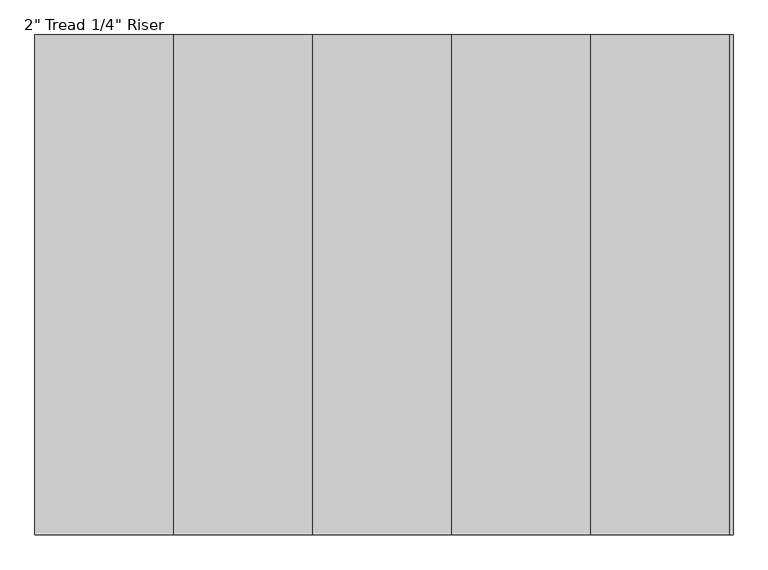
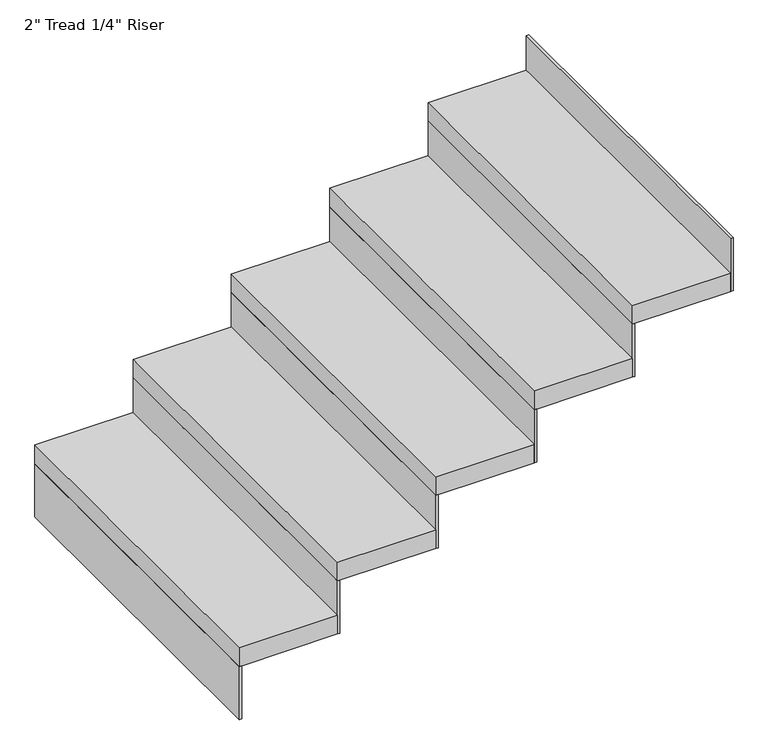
"""IFC4 building model written with IfcOpenShell, lengths in millimetres: stair flight geometry."""

from ifc_helpers import new_model, si_unit, frame, origin, place, context, project, spatial, polyline, outline, extrude, source, transform, mapped, element, save


def stair_flight_8d318a11(model_context):
    return source(origin(), model_context, "Body", "SweptSolid", [
        extrude(outline(polyline([(113733.4236551, 15846.0395941), (113727.0736551, 15846.0395941), (113727.0736551, 16760.4395941), (113733.4236551, 16760.4395941), (113733.4236551, 15846.0395941)])), frame((0.0, 0.0, 2126.3428571), z_axis=(0.0, 0.0, 1.0), x_axis=(1.0, 0.0, 0.0)), (0.0, 0.0, 1.0), 145.1428571),
        extrude(outline(polyline([(113981.0736551, 16760.4395941), (113981.0736551, 15846.0395941), (113727.0736551, 15846.0395941), (113727.0736551, 16760.4395941), (113981.0736551, 16760.4395941)])), frame((0.0, 0.0, 2271.4857143), z_axis=(0.0, 0.0, 1.0), x_axis=(1.0, 0.0, 0.0)), (0.0, 0.0, 1.0), 50.8),
        extrude(outline(polyline([(113987.4236551, 15846.0395941), (113981.0736551, 15846.0395941), (113981.0736551, 16760.4395941), (113987.4236551, 16760.4395941), (113987.4236551, 15846.0395941)])), frame((0.0, 0.0, 2271.4857143), z_axis=(0.0, 0.0, 1.0), x_axis=(1.0, 0.0, 0.0)), (0.0, 0.0, 1.0), 145.1428571),
        extrude(outline(polyline([(114235.0736551, 16760.4395941), (114235.0736551, 15846.0395941), (113981.0736551, 15846.0395941), (113981.0736551, 16760.4395941), (114235.0736551, 16760.4395941)])), frame((0.0, 0.0, 2416.6285714), z_axis=(0.0, 0.0, 1.0), x_axis=(1.0, 0.0, 0.0)), (0.0, 0.0, 1.0), 50.8),
        extrude(outline(polyline([(114241.4236551, 15846.0395941), (114235.0736551, 15846.0395941), (114235.0736551, 16760.4395941), (114241.4236551, 16760.4395941), (114241.4236551, 15846.0395941)])), frame((0.0, 0.0, 2416.6285714), z_axis=(0.0, 0.0, 1.0), x_axis=(1.0, 0.0, 0.0)), (0.0, 0.0, 1.0), 145.1428571),
        extrude(outline(polyline([(114489.0736551, 16760.4395941), (114489.0736551, 15846.0395941), (114235.0736551, 15846.0395941), (114235.0736551, 16760.4395941), (114489.0736551, 16760.4395941)])), frame((0.0, 0.0, 2561.7714286), z_axis=(0.0, 0.0, 1.0), x_axis=(1.0, 0.0, 0.0)), (0.0, 0.0, 1.0), 50.8),
        extrude(outline(polyline([(114495.4236551, 15846.0395941), (114489.0736551, 15846.0395941), (114489.0736551, 16760.4395941), (114495.4236551, 16760.4395941), (114495.4236551, 15846.0395941)])), frame((0.0, 0.0, 2561.7714286), z_axis=(0.0, 0.0, 1.0), x_axis=(1.0, 0.0, 0.0)), (0.0, 0.0, 1.0), 145.1428571),
        extrude(outline(polyline([(114743.0736551, 16760.4395941), (114743.0736551, 15846.0395941), (114489.0736551, 15846.0395941), (114489.0736551, 16760.4395941), (114743.0736551, 16760.4395941)])), frame((0.0, 0.0, 2706.9142857), z_axis=(0.0, 0.0, 1.0), x_axis=(1.0, 0.0, 0.0)), (0.0, 0.0, 1.0), 50.8),
        extrude(outline(polyline([(114749.4236551, 15846.0395941), (114743.0736551, 15846.0395941), (114743.0736551, 16760.4395941), (114749.4236551, 16760.4395941), (114749.4236551, 15846.0395941)])), frame((0.0, 0.0, 2706.9142857), z_axis=(0.0, 0.0, 1.0), x_axis=(1.0, 0.0, 0.0)), (0.0, 0.0, 1.0), 145.1428571),
        extrude(outline(polyline([(115003.4236551, 15846.0395941), (114997.0736551, 15846.0395941), (114997.0736551, 16760.4395941), (115003.4236551, 16760.4395941), (115003.4236551, 15846.0395941)])), frame((0.0, 0.0, 2852.0571429), z_axis=(0.0, 0.0, 1.0), x_axis=(1.0, 0.0, 0.0)), (0.0, 0.0, 1.0), 145.1428571),
        extrude(outline(polyline([(114997.0736551, 16760.4395941), (114997.0736551, 15846.0395941), (114743.0736551, 15846.0395941), (114743.0736551, 16760.4395941), (114997.0736551, 16760.4395941)])), frame((0.0, 0.0, 2852.0571429), z_axis=(0.0, 0.0, 1.0), x_axis=(1.0, 0.0, 0.0)), (0.0, 0.0, 1.0), 50.8),
    ])


if __name__ == "__main__":
    model = new_model("IFC4")
    model_context = context("Model", 3, world=origin())
    ifc_project = project(units=[si_unit("LENGTHUNIT", "METRE", prefix="MILLI")], contexts=[model_context])
    site = spatial("IfcSite", under=ifc_project)
    building = spatial("IfcBuilding", under=site)
    placement = place(None, origin())
    stair_flight_shape = stair_flight_8d318a11(model_context)
    element("IfcStairFlight", 1, ObjectType="2\" Tread 1/4\" Riser", at=placement, inside=building, context=model_context, shape_type="MappedRepresentation", body=[
        mapped(stair_flight_shape, transform((0.0, 0.0, 0.0), x_axis=(1.0, 0.0, 0.0), y_axis=(0.0, 1.0, 0.0), z_axis=(0.0, 0.0, 1.0))),
    ])
    save(model, "model.ifc")
